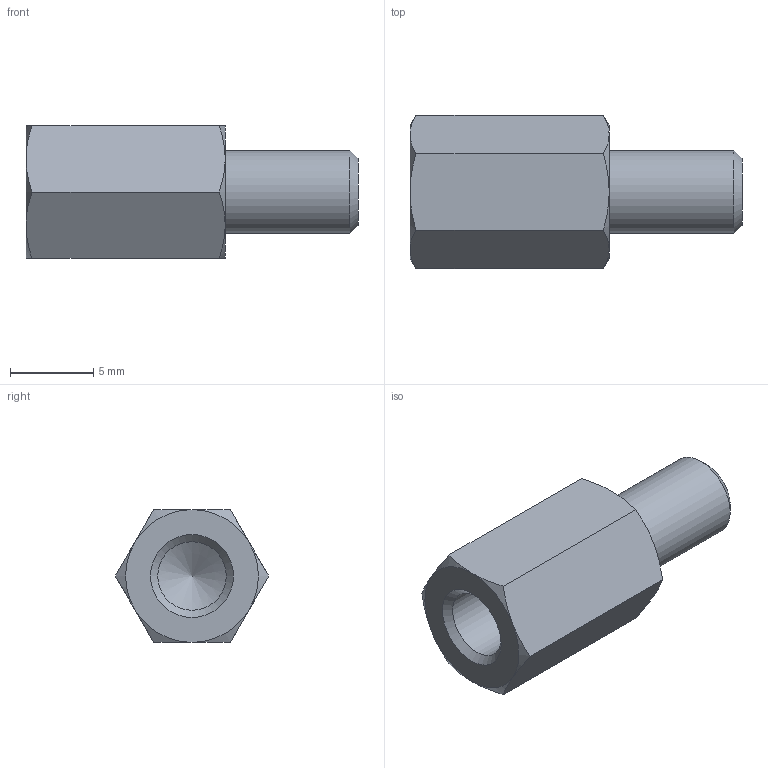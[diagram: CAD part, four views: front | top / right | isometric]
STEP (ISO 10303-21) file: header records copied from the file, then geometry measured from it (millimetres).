
FILE_DESCRIPTION( ( 'STEP AP203' ), '1' );
FILE_NAME( 'C:/Temp/Ganter_Step_05_03_2020/data/3_2/gn6220/gn6220_st/Spacer GN 6220-ST-M5-12-B.stp', '2020-03-13T05:42:42', ( 'License CC BY-ND 4.0' ), ( 'CADENAS' ), ' ', 'PARTsolutions', ' ' );
FILE_SCHEMA( ( 'CONFIG_CONTROL_DESIGN' ) );
Length unit declared in the file: millimetre
Products named in the file (1): _Spacer GN 6220-ST-M5-12-B
Bounding box: 20 x 9.24 x 8 mm (x, y, z)
Volume: 691.6 mm3; surface area: 675.1 mm2
Topology: 1 solids, 1 shells, 26 faces, 55 edges, 32 vertices
Faces by surface type: cone 15, plane 9, cylinder 2
Full cylindrical faces by diameter (mm): 4.134 x1, 5 x1
Entity records: 746 total; most frequent: CARTESIAN_POINT 210, DIRECTION 96, ORIENTED_EDGE 96, EDGE_CURVE 48, AXIS2_PLACEMENT_3D 45, EDGE_LOOP 32, VERTEX_POINT 31, FACE_OUTER_BOUND 28
